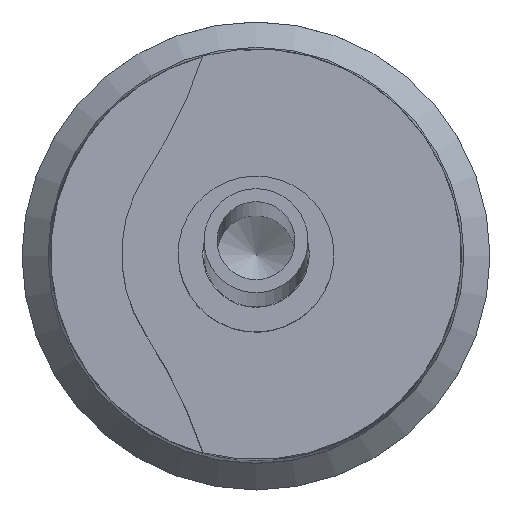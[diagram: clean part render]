
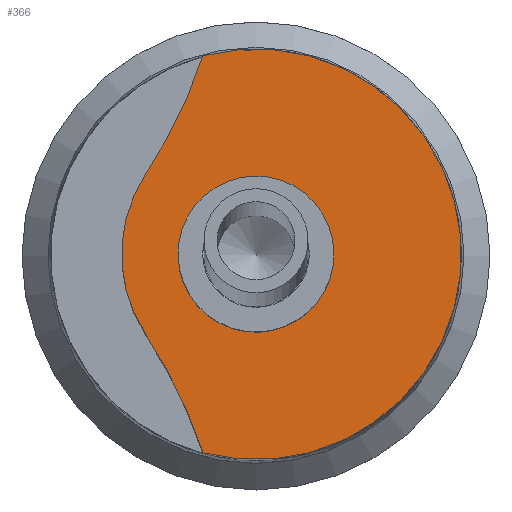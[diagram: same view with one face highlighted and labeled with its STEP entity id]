
A CAD part, top view. The second image highlights one B-rep face of the part: STEP entity #366.
In plain terms, the highlighted planar face has unit normal (0, 0, 1).
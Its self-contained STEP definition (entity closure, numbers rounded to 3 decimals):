
#366=ADVANCED_FACE('',(#450,#517),#408,.T.);
#408=PLANE('',#1388);
#450=FACE_BOUND('',#612,.T.);
#517=FACE_OUTER_BOUND('',#613,.T.);
#612=EDGE_LOOP('',(#900));
#613=EDGE_LOOP('',(#901,#902,#903,#904));
#900=ORIENTED_EDGE('',*,*,#1167,.F.);
#901=ORIENTED_EDGE('',*,*,#1185,.T.);
#902=ORIENTED_EDGE('',*,*,#1186,.T.);
#903=ORIENTED_EDGE('',*,*,#1168,.F.);
#904=ORIENTED_EDGE('',*,*,#1184,.T.);
#1024=VERTEX_POINT('',#2124);
#1025=VERTEX_POINT('',#2127);
#1026=VERTEX_POINT('',#2128);
#1035=VERTEX_POINT('',#2158);
#1036=VERTEX_POINT('',#2162);
#1167=EDGE_CURVE('',#1024,#1024,#1238,.T.);
#1168=EDGE_CURVE('',#1025,#1026,#1239,.T.);
#1184=EDGE_CURVE('',#1025,#1035,#1250,.T.);
#1185=EDGE_CURVE('',#1035,#1036,#1251,.T.);
#1186=EDGE_CURVE('',#1036,#1026,#1252,.T.);
#1238=CIRCLE('',#1365,1.5);
#1239=CIRCLE('',#1367,2.8);
#1250=CIRCLE('',#1384,10.);
#1251=CIRCLE('',#1386,3.95);
#1252=CIRCLE('',#1387,10.);
#1365=AXIS2_PLACEMENT_3D('',#2123,#1672,#1673);
#1367=AXIS2_PLACEMENT_3D('',#2126,#1676,#1677);
#1384=AXIS2_PLACEMENT_3D('',#2159,#1715,#1716);
#1386=AXIS2_PLACEMENT_3D('',#2161,#1719,#1720);
#1387=AXIS2_PLACEMENT_3D('',#2163,#1721,#1722);
#1388=AXIS2_PLACEMENT_3D('',#2164,#1723,#1724);
#1672=DIRECTION('',(0.,0.,1.));
#1673=DIRECTION('',(0.88,-0.475,0.));
#1676=DIRECTION('',(0.,0.,-1.));
#1677=DIRECTION('',(1.,0.,0.));
#1715=DIRECTION('',(0.,0.,-1.));
#1716=DIRECTION('',(1.,0.,0.));
#1719=DIRECTION('',(0.,0.,1.));
#1720=DIRECTION('',(1.,0.,0.));
#1721=DIRECTION('',(0.,0.,-1.));
#1722=DIRECTION('',(1.,0.,0.));
#1723=DIRECTION('',(0.,0.,1.));
#1724=DIRECTION('',(1.,0.,0.));
#2123=CARTESIAN_POINT('',(0.,0.,19.02));
#2124=CARTESIAN_POINT('',(1.32,-0.713,19.02));
#2126=CARTESIAN_POINT('',(0.216,0.,19.02));
#2127=CARTESIAN_POINT('',(-2.128,-1.531,19.02));
#2128=CARTESIAN_POINT('',(-2.128,1.531,19.02));
#2158=CARTESIAN_POINT('',(-1.02,-3.816,19.02));
#2159=CARTESIAN_POINT('',(-10.5,-7.,19.02));
#2161=CARTESIAN_POINT('',(0.,0.,19.02));
#2162=CARTESIAN_POINT('',(-1.02,3.816,19.02));
#2163=CARTESIAN_POINT('',(-10.5,7.,19.02));
#2164=CARTESIAN_POINT('',(0.,0.,19.02));
